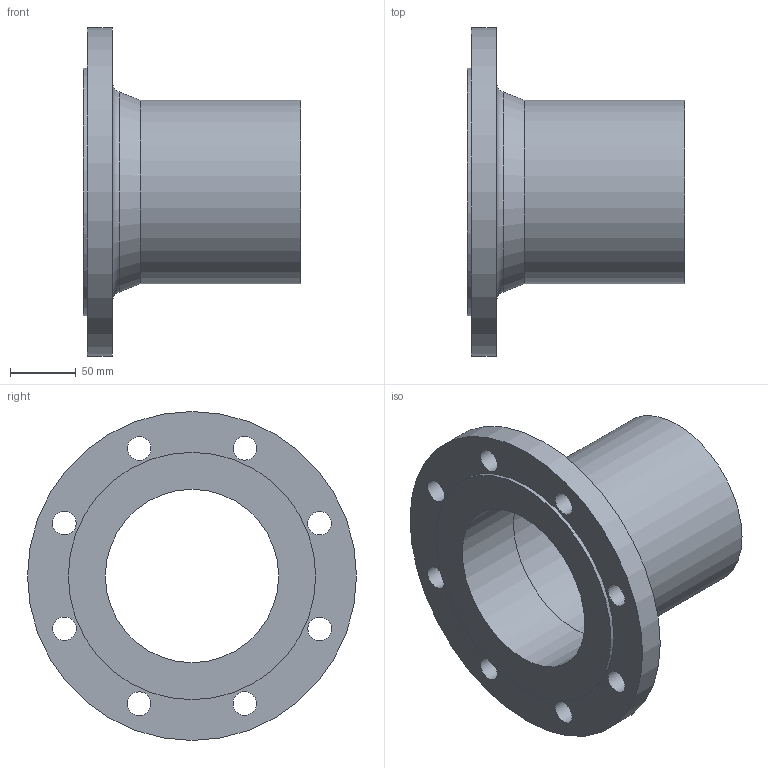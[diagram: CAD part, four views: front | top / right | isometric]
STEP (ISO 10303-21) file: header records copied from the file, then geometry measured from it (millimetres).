
FILE_DESCRIPTION(/* description */ (''),/* implementation_level */ '2;1');
FILE_NAME(/* name */ 'C:\Users\LK_9K\Desktop\STRAUB FLANSCHADAPTER DN125A.stp',/* time_stamp */ '2021-04-12T09:19:07+02:00',/* author */ ('LK_9K'),/* organization */ (''),/* preprocessor_version */ 'ST-DEVELOPER v18.1',/* originating_system */ 'Autodesk Inventor 2020',/* authorisation */ '');
FILE_SCHEMA (('AUTOMOTIVE_DESIGN { 1 0 10303 214 3 1 1 }'));
Length unit declared in the file: millimetre
Products named in the file (1): STRAUB FLANSCHADAPTER DN125
Bounding box: 165 x 250 x 250 mm (x, y, z)
Volume: 898703.9 mm3; surface area: 220957.5 mm2
Topology: 1 solids, 1 shells, 20 faces, 63 edges, 48 vertices
Faces by surface type: cylinder 13, plane 5, torus 1, cone 1
Full cylindrical faces by diameter (mm): 18 x8, 131.7 x1, 134.5 x1, 139.7 x1, 188 x1, 250 x1
Entity records: 837 total; most frequent: DIRECTION 154, CARTESIAN_POINT 132, ORIENTED_EDGE 126, AXIS2_PLACEMENT_3D 70, EDGE_CURVE 63, CIRCLE 49, VERTEX_POINT 48, EDGE_LOOP 41
